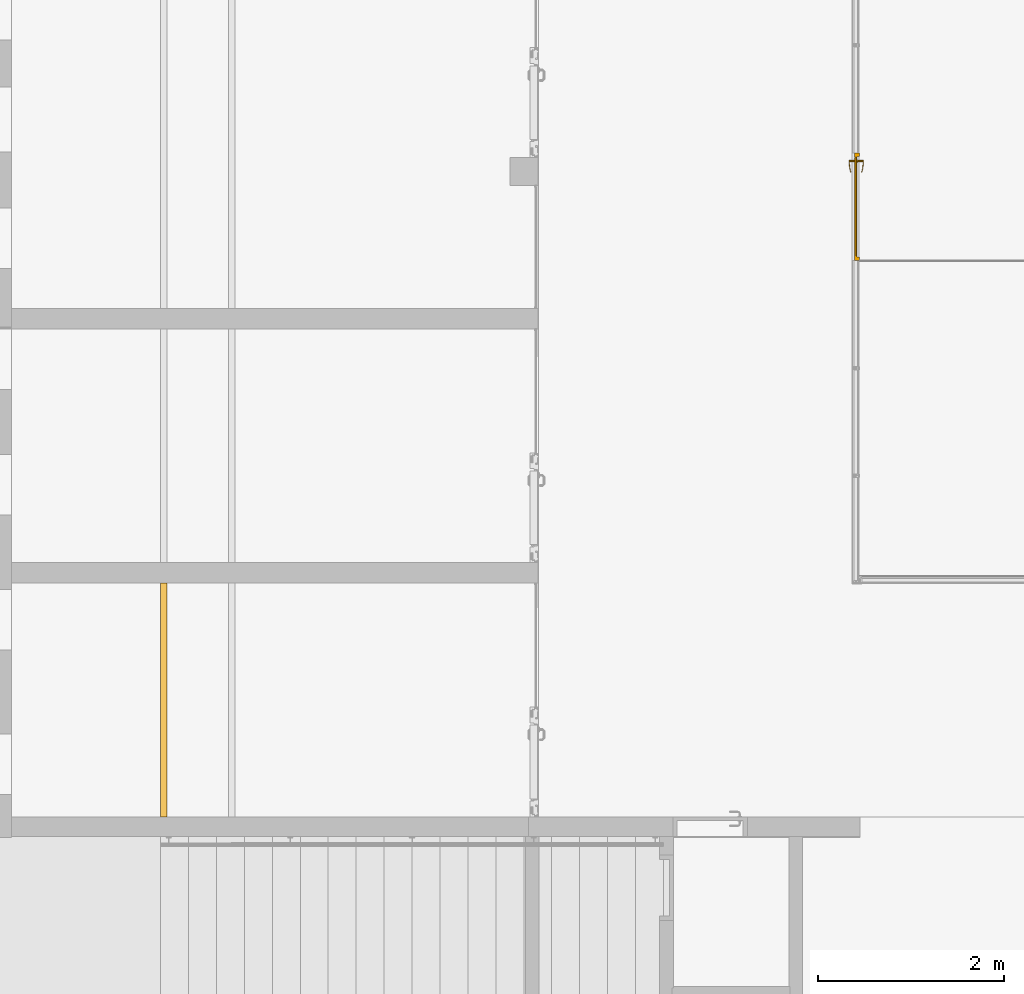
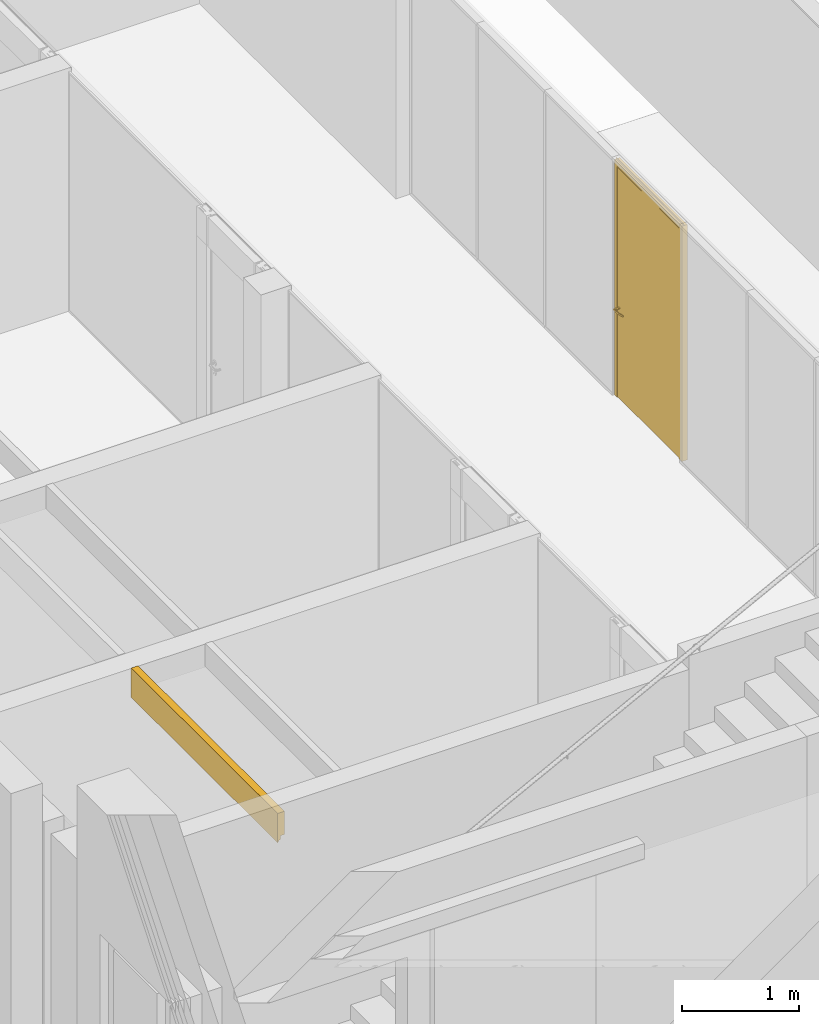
# One storey, part 53 of 79: 1 covering, 1 door, 1 element without a shape of its own.
"""IFC2X3 building model written with IfcOpenShell, lengths in millimetres."""

from ifc_helpers import new_model, entity, si_unit, converted_unit, derived_unit, money_unit, direction, frame, origin_with_axes, place, context, subcontext, project, spatial, open_shell, faceted_brep, surface_model, material, material_list, type_object, element, aggregate, save


model = new_model("IFC2X3")

# Units and contexts
model_context = context("Model", 3, precision=0.01, world=origin_with_axes(), true_north=direction((0.0, 1.0)))
body_context = subcontext(model_context, "Body", "Model", "MODEL_VIEW")
ifc_project = project(units=[si_unit("LENGTHUNIT", "METRE", prefix="MILLI"), si_unit("AREAUNIT", "SQUARE_METRE"), si_unit("VOLUMEUNIT", "CUBIC_METRE"), converted_unit("PLANEANGLEUNIT", "DEGREE", entity("IfcPlaneAngleMeasure", 0.0174532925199), si_unit("PLANEANGLEUNIT", "RADIAN"), dimensions=[0, 0, 0, 0, 0, 0, 0]), si_unit("SOLIDANGLEUNIT", "STERADIAN"), money_unit("EUR"), converted_unit("TIMEUNIT", "Year", entity("IfcTimeMeasure", 31556926.0), si_unit("TIMEUNIT", "SECOND"), dimensions=[0, 0, 1, 0, 0, 0, 0]), si_unit("MASSUNIT", "GRAM", prefix="KILO"), si_unit("THERMODYNAMICTEMPERATUREUNIT", "DEGREE_CELSIUS"), si_unit("LUMINOUSINTENSITYUNIT", "LUMEN"), si_unit("ENERGYUNIT", "JOULE", prefix="MEGA"), derived_unit("THERMALCONDUCTANCEUNIT", [(si_unit("POWERUNIT", "WATT"), 1), (si_unit("LENGTHUNIT", "METRE"), -1), (si_unit("THERMODYNAMICTEMPERATUREUNIT", "KELVIN"), -1)]), derived_unit("SPECIFICHEATCAPACITYUNIT", [(si_unit("ENERGYUNIT", "JOULE"), 1), (si_unit("MASSUNIT", "GRAM", prefix="KILO"), -1), (si_unit("THERMODYNAMICTEMPERATUREUNIT", "KELVIN"), -1)]), derived_unit("MASSDENSITYUNIT", [(si_unit("MASSUNIT", "GRAM", prefix="KILO"), 1), (si_unit("VOLUMEUNIT", "CUBIC_METRE"), -1)])], contexts=[model_context])

# Site, building, storey
site_placement = place(None, origin_with_axes())
site = spatial("IfcSite", under=ifc_project, at=site_placement, Name="L.Koidula tn 11b", CompositionType="ELEMENT")
building_placement = place(site_placement, origin_with_axes())
building = spatial("IfcBuilding", under=site, at=building_placement, Name="Rakvere Riigigümnaasium", CompositionType="ELEMENT")
storey_placement = place(building_placement, frame((0.0, 0.0, 3720.0), z_axis=(0.0, 0.0, 1.0), x_axis=(1.0, 0.0, 0.0)))
storey = spatial("IfcBuildingStorey", under=building, at=storey_placement, Name="2.korrus +3,72", CompositionType="ELEMENT", Elevation=3720.0)

# Curtain wall, door
curtain_wall_type = type_object("IfcCurtainWallType", Name="Curtain Wall Type", PredefinedType="NOTDEFINED")
curtain_wall_placement = place(storey_placement, frame((44568.0000786, 20404.7190306, -3.55964617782e-05), z_axis=(0.0, 0.0, 1.0), x_axis=(1.0, 0.0, 0.0)))
curtain_wall = element("IfcCurtainWall", 1, at=curtain_wall_placement, inside=storey, type_object=curtain_wall_type, Name="SKLF-17")
ifc_material_1 = material(Name="Alumiiniumprofiil")
ifc_material_2 = material(Name="VKR-05_Klaas")
ifc_material_3 = material(Name="ET-07_Teras - Roostevaba")
ifc_material_list_1 = material_list([ifc_material_1, ifc_material_2, ifc_material_3])
door_style = type_object("IfcDoorStyle", Name="Siseklaasfassaad - Klaasuks-Doubleline 1156 x 2478 x -5", ConstructionType="NOTDEFINED", OperationType="NOTDEFINED", ParameterTakesPrecedence=False, Sizeable=False)
door_placement = place(curtain_wall_placement, frame((0.0, 3468.5, 1246.5000178), z_axis=(0.0, 0.0, 1.0), x_axis=(0.0, -1.0, 0.0)))
door = element("IfcDoor", 2, at=door_placement, type_object=door_style, material=ifc_material_list_1, Name="Panel-Siseklaasf-016", ObjectType="DOOR", context=body_context, shape_type="SurfaceModel", body=[
    faceted_brep([(-578.000009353, -18.5, -1246.5000178), (-578.000009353, -18.5, 1216.50000946), (-578.000009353, -4.5, 1216.50000946), (-578.000009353, -4.5, -1246.5000178), (-532.000009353, -18.5, -1246.5000178), (-532.000009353, -18.5, 1170.50000946), (-532.000009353, -4.5, 1170.50000946), (-532.000009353, -4.5, -1246.5000178)], [[[0, 1, 2, 3]], [[0, 4, 5, 1]], [[1, 5, 6, 2]], [[3, 2, 6, 7]], [[4, 0, 3, 7]], [[5, 4, 7, 6]]]),
    faceted_brep([(578.0, -18.5, 1216.50000946), (532.0, -18.5, 1170.50000946), (532.0, -4.5, 1170.50000946), (578.0, -4.5, 1216.50000946), (-578.000009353, -18.5, 1216.50000946), (-532.000009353, -18.5, 1170.50000946), (-532.000009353, -4.5, 1170.50000946), (-578.000009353, -4.5, 1216.50000946)], [[[0, 1, 2, 3]], [[0, 4, 5, 1]], [[1, 5, 6, 2]], [[3, 2, 6, 7]], [[4, 0, 3, 7]], [[5, 4, 7, 6]]]),
    faceted_brep([(578.0, -18.5, -1246.5000178), (532.0, -18.5, -1246.5000178), (532.0, -4.5, -1246.5000178), (578.0, -4.5, -1246.5000178), (578.0, -18.5, 1216.50000946), (532.0, -18.5, 1170.50000946), (532.0, -4.5, 1170.50000946), (578.0, -4.5, 1216.50000946)], [[[0, 1, 2, 3]], [[0, 4, 5, 1]], [[1, 5, 6, 2]], [[3, 2, 6, 7]], [[4, 0, 3, 7]], [[5, 4, 7, 6]]]),
    faceted_brep([(-578.000009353, -4.5, -1246.5000178), (-578.000009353, -4.5, 1216.50000946), (-578.000009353, 35.5, 1216.50000946), (-578.000009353, 35.5, -1246.5000178), (-540.000009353, -4.5, -1246.5000178), (-540.000009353, -4.5, 1178.50000946), (-540.000009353, 35.5, 1178.50000946), (-540.000009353, 35.5, -1246.5000178)], [[[0, 1, 2, 3]], [[0, 4, 5, 1]], [[1, 5, 6, 2]], [[3, 2, 6, 7]], [[4, 0, 3, 7]], [[5, 4, 7, 6]]]),
    faceted_brep([(578.0, -4.5, 1216.50000946), (540.0, -4.5, 1178.50000946), (540.0, 35.5, 1178.50000946), (578.0, 35.5, 1216.50000946), (-578.000009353, -4.5, 1216.50000946), (-540.000009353, -4.5, 1178.50000946), (-540.000009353, 35.5, 1178.50000946), (-578.000009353, 35.5, 1216.50000946)], [[[0, 1, 2, 3]], [[0, 4, 5, 1]], [[1, 5, 6, 2]], [[3, 2, 6, 7]], [[4, 0, 3, 7]], [[5, 4, 7, 6]]]),
    faceted_brep([(578.0, -4.5, -1246.5000178), (540.0, -4.5, -1246.5000178), (540.0, 35.5, -1246.5000178), (578.0, 35.5, -1246.5000178), (578.0, -4.5, 1216.50000946), (540.0, -4.5, 1178.50000946), (540.0, 35.5, 1178.50000946), (578.0, 35.5, 1216.50000946)], [[[0, 1, 2, 3]], [[0, 4, 5, 1]], [[1, 5, 6, 2]], [[3, 2, 6, 7]], [[4, 0, 3, 7]], [[5, 4, 7, 6]]]),
    faceted_brep([(-578.000009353, -2.5, 1231.49999505), (578.0, -2.5, 1231.49999505), (578.0, 2.5, 1231.49999505), (-578.000009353, 2.5, 1231.49999505), (-578.000009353, -2.5, 1216.50000946), (578.0, -2.5, 1216.50000946), (578.0, 2.5, 1216.50000946), (-578.000009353, 2.5, 1216.50000946)], [[[0, 1, 2, 3]], [[0, 4, 5, 1]], [[1, 5, 6, 2]], [[3, 2, 6, 7]], [[4, 0, 3, 7]], [[5, 4, 7, 6]]]),
    faceted_brep([(528.0, -4.5, -1234.5000178), (528.0, -4.5, 1166.50000946), (528.0, 7.5, 1166.50000946), (528.0, 7.5, -1234.5000178), (540.0, -4.5, -1246.5000178), (540.0, -4.5, 1178.50000946), (540.0, 7.5, 1178.50000946), (540.0, 7.5, -1246.5000178)], [[[0, 1, 2, 3]], [[0, 4, 5, 1]], [[1, 5, 6, 2]], [[3, 2, 6, 7]], [[4, 0, 3, 7]], [[5, 4, 7, 6]]]),
    faceted_brep([(-540.000009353, -4.5, -1246.5000178), (-540.000009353, -4.5, 1178.50000946), (-540.000009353, 7.5, 1178.50000946), (-540.000009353, 7.5, -1246.5000178), (-528.000009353, -4.5, -1234.5000178), (-528.000009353, -4.5, 1166.50000946), (-528.000009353, 7.5, 1166.50000946), (-528.000009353, 7.5, -1234.5000178)], [[[0, 1, 2, 3]], [[0, 4, 5, 1]], [[1, 5, 6, 2]], [[3, 2, 6, 7]], [[4, 0, 3, 7]], [[5, 4, 7, 6]]]),
    faceted_brep([(-540.000009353, -4.5, -1246.5000178), (-528.000009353, -4.5, -1234.5000178), (-528.000009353, 7.5, -1234.5000178), (-540.000009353, 7.5, -1246.5000178), (540.0, -4.5, -1246.5000178), (528.0, -4.5, -1234.5000178), (528.0, 7.5, -1234.5000178), (540.0, 7.5, -1246.5000178)], [[[0, 1, 2, 3]], [[0, 4, 5, 1]], [[1, 5, 6, 2]], [[3, 2, 6, 7]], [[4, 0, 3, 7]], [[5, 4, 7, 6]]]),
    faceted_brep([(540.0, -4.5, 1178.50000946), (528.0, -4.5, 1166.50000946), (528.0, 7.5, 1166.50000946), (540.0, 7.5, 1178.50000946), (-540.000009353, -4.5, 1178.50000946), (-528.000009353, -4.5, 1166.50000946), (-528.000009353, 7.5, 1166.50000946), (-540.000009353, 7.5, 1178.50000946)], [[[0, 1, 2, 3]], [[0, 4, 5, 1]], [[1, 5, 6, 2]], [[3, 2, 6, 7]], [[4, 0, 3, 7]], [[5, 4, 7, 6]]]),
    faceted_brep([(528.0, -18.5, -1234.5000178), (-528.000009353, -18.5, -1234.5000178), (-528.000009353, -2.5, -1234.5000178), (528.0, -2.5, -1234.5000178), (528.0, -18.5, 1166.50000946), (-528.000009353, -18.5, 1166.50000946), (-528.000009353, -2.5, 1166.50000946), (528.0, -2.5, 1166.50000946)], [[[0, 1, 2, 3]], [[0, 4, 5, 1]], [[1, 5, 6, 2]], [[3, 2, 6, 7]], [[4, 0, 3, 7]], [[5, 4, 7, 6]]]),
    faceted_brep([(-518.500009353, 7.5, -224.500017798), (-461.500009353, 7.5, -224.500017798), (-461.500009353, 10.5, -224.500017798), (-518.500009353, 10.5, -224.500017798), (-518.500009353, 7.5, -414.500017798), (-461.500009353, 7.5, -414.500017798), (-461.500009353, 10.5, -414.500017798), (-518.500009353, 10.5, -414.500017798)], [[[0, 1, 2, 3]], [[0, 4, 5, 1]], [[1, 5, 6, 2]], [[3, 2, 6, 7]], [[4, 0, 3, 7]], [[5, 4, 7, 6]]]),
    surface_model("IfcShellBasedSurfaceModel", [(-490.000009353, 71.5, -294.500017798), (-498.660263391, 71.5, -289.500017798), (-498.660263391, 78.5, -289.500017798), (-490.000009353, 78.5, -294.500017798), (-465.000009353, 71.5, -294.500017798), (-465.000009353, 71.5, -274.500017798), (-490.000009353, 71.5, -274.500017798), (-498.660263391, 71.5, -279.500017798), (-498.660263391, 78.5, -279.500017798), (-490.000009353, 78.5, -274.500017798), (-465.000009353, 78.5, -274.500017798), (-465.000009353, 78.5, -294.500017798)], [open_shell([[[0, 1, 2, 3]], [[0, 4, 5, 6, 7, 1]], [[1, 7, 8, 2]], [[3, 2, 8, 9, 10, 11]], [[4, 0, 3, 11]], [[6, 5, 10, 9]], [[7, 6, 9, 8]]])]),
    surface_model("IfcShellBasedSurfaceModel", [(-465.000009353, 71.5, -274.500017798), (-451.901726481, 71.5, -274.89271688), (-451.596099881, 78.5, -274.89271688), (-465.000009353, 71.5, -294.500017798), (-451.901726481, 71.5, -294.107318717), (-424.890292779, 76.1635446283, -275.678115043), (-465.000009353, 78.5, -274.500017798), (-465.000009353, 78.5, -294.500017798), (-425.804846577, 69.216818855, -293.321920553), (-425.804846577, 69.216818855, -275.678115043), (-424.890292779, 76.1635446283, -293.321920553), (-451.596099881, 78.5, -294.107318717), (-400.006265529, 64.6678329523, -292.53652239), (-400.006265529, 64.6678329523, -276.463513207), (-398.48974484, 71.5084157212, -276.463513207), (-398.48974484, 71.5084157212, -292.53652239), (-374.702326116, 57.8876628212, -291.751124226), (-374.702326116, 57.8876628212, -277.24891137), (-372.595380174, 64.5700416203, -277.24891137), (-372.595380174, 64.5700416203, -291.751124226), (-366.829451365, 55.0221707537, -291.500017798), (-366.829451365, 55.0221707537, -277.500017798), (-364.538805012, 61.6376880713, -277.500017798), (-364.538805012, 61.6376880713, -291.500017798)], [open_shell([[[0, 1, 2]], [[0, 3, 4, 1]], [[1, 5, 2]], [[0, 2, 6]], [[4, 3, 7]], [[1, 4, 8, 9]], [[1, 9, 5]], [[2, 5, 10, 11]], [[6, 2, 11, 7]], [[4, 7, 11]], [[8, 4, 11]], [[9, 8, 12, 13]], [[9, 14, 5]], [[5, 14, 15, 10]], [[8, 11, 10]], [[12, 8, 10]], [[13, 12, 16, 17]], [[9, 13, 14]], [[14, 18, 19, 15]], [[12, 10, 15]], [[16, 12, 15]], [[17, 16, 20, 21]], [[13, 17, 18]], [[13, 18, 14]], [[18, 22, 23, 19]], [[16, 15, 19]], [[20, 16, 19]], [[21, 20, 23, 22]], [[17, 21, 22]], [[17, 22, 18]], [[20, 19, 23]]])]),
    faceted_brep([(-486.291805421, 20.5, -295.912695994), (-478.000009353, 20.5, -284.500017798), (-477.000009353, 10.5, -284.500017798), (-485.982788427, 10.5, -296.86375251), (-499.708213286, 20.5, -291.553440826), (-499.708213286, 20.5, -277.446594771), (-486.291805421, 20.5, -273.087339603), (-485.982788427, 10.5, -272.136283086), (-500.51723028, 10.5, -276.858809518), (-500.51723028, 10.5, -292.141226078)], [[[0, 1, 2, 3]], [[1, 0, 4, 5, 6]], [[1, 6, 7, 2]], [[2, 7, 8, 9, 3]], [[4, 0, 3, 9]], [[5, 4, 9, 8]], [[6, 5, 8, 7]]]),
    faceted_brep([(-483.819669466, 14.5, -398.521148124), (-470.000009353, 14.5, -379.500017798), (-468.000009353, 10.5, -379.500017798), (-483.201635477, 10.5, -400.423261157), (-506.180349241, 14.5, -391.255722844), (-506.180349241, 14.5, -367.744312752), (-483.819669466, 14.5, -360.478887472), (-483.201635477, 10.5, -358.57677444), (-507.79838323, 10.5, -366.568742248), (-507.79838323, 10.5, -392.431293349)], [[[0, 1, 2, 3]], [[1, 0, 4, 5, 6]], [[1, 6, 7, 2]], [[2, 7, 8, 9, 3]], [[4, 0, 3, 9]], [[5, 4, 9, 8]], [[6, 5, 8, 7]]]),
    faceted_brep([(-487.836890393, 16.5, -377.157413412), (-483.000009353, 16.5, -370.500017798), (-482.000009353, 14.5, -370.500017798), (-487.527873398, 14.5, -378.108469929), (-495.663128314, 16.5, -374.614514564), (-495.663128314, 16.5, -366.385521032), (-487.836890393, 16.5, -363.842622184), (-487.527873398, 14.5, -362.891565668), (-496.472145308, 14.5, -365.79773578), (-496.472145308, 14.5, -375.202299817)], [[[0, 1, 2, 3]], [[1, 0, 4, 5, 6]], [[1, 6, 7, 2]], [[2, 7, 8, 9, 3]], [[4, 0, 3, 9]], [[5, 4, 9, 8]], [[6, 5, 8, 7]]]),
    faceted_brep([(-490.000009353, 20.5, -274.500017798), (-480.48944419, 20.5, -281.409847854), (-480.48944419, 71.5, -281.409847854), (-490.000009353, 71.5, -274.500017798), (-499.510574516, 20.5, -281.409847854), (-495.877861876, 20.5, -292.590187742), (-484.122156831, 20.5, -292.590187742), (-484.122156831, 71.5, -292.590187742), (-495.877861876, 71.5, -292.590187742), (-499.510574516, 71.5, -281.409847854)], [[[0, 1, 2, 3]], [[0, 4, 5, 6, 1]], [[1, 6, 7, 2]], [[3, 2, 7, 8, 9]], [[4, 0, 3, 9]], [[5, 4, 9, 8]], [[6, 5, 8, 7]]]),
    faceted_brep([(-518.500009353, -4.5, -224.500017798), (-518.500009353, -7.5, -224.500017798), (-461.500009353, -7.5, -224.500017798), (-461.500009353, -4.5, -224.500017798), (-518.500009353, -4.5, -414.500017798), (-518.500009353, -7.5, -414.500017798), (-461.500009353, -7.5, -414.500017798), (-461.500009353, -4.5, -414.500017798)], [[[0, 1, 2, 3]], [[4, 5, 1, 0]], [[1, 5, 6, 2]], [[3, 2, 6, 7]], [[0, 3, 7, 4]], [[7, 6, 5, 4]]]),
    surface_model("IfcShellBasedSurfaceModel", [(-490.000009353, -68.5, -294.500017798), (-490.000009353, -75.5, -294.500017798), (-498.660263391, -75.5, -289.500017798), (-498.660263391, -68.5, -289.500017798), (-465.000009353, -68.5, -294.500017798), (-465.000009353, -75.5, -294.500017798), (-465.000009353, -75.5, -274.500017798), (-490.000009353, -75.5, -274.500017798), (-498.660263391, -75.5, -279.500017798), (-498.660263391, -68.5, -279.500017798), (-490.000009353, -68.5, -274.500017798), (-465.000009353, -68.5, -274.500017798)], [open_shell([[[0, 1, 2, 3]], [[4, 5, 1, 0]], [[1, 5, 6, 7, 8, 2]], [[3, 2, 8, 9]], [[0, 3, 9, 10, 11, 4]], [[10, 7, 6, 11]], [[9, 8, 7, 10]]])]),
    surface_model("IfcShellBasedSurfaceModel", [(-465.000009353, -68.5, -274.500017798), (-451.596099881, -75.5, -274.89271688), (-451.901726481, -68.5, -274.89271688), (-465.000009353, -75.5, -274.500017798), (-424.890292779, -73.1635446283, -275.678115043), (-451.901726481, -68.5, -294.107318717), (-465.000009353, -68.5, -294.500017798), (-465.000009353, -75.5, -294.500017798), (-451.596099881, -75.5, -294.107318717), (-424.890292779, -73.1635446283, -293.321920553), (-425.804846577, -66.216818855, -275.678115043), (-425.804846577, -66.216818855, -293.321920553), (-398.48974484, -68.5084157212, -292.53652239), (-398.48974484, -68.5084157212, -276.463513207), (-400.006265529, -61.6678329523, -276.463513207), (-400.006265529, -61.6678329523, -292.53652239), (-372.595380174, -61.5700416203, -291.751124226), (-372.595380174, -61.5700416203, -277.24891137), (-374.702326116, -54.8876628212, -277.24891137), (-374.702326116, -54.8876628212, -291.751124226), (-364.538805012, -58.6376880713, -291.500017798), (-364.538805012, -58.6376880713, -277.500017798), (-366.829451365, -52.0221707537, -277.500017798), (-366.829451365, -52.0221707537, -291.500017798)], [open_shell([[[0, 1, 2]], [[0, 3, 1]], [[2, 1, 4]], [[0, 2, 5, 6]], [[3, 7, 8, 1]], [[1, 8, 9, 4]], [[2, 4, 10]], [[2, 10, 11, 5]], [[5, 7, 6]], [[5, 8, 7]], [[11, 9, 8]], [[4, 9, 12, 13]], [[10, 4, 13]], [[10, 14, 15, 11]], [[11, 8, 5]], [[15, 9, 11]], [[15, 12, 9]], [[13, 12, 16, 17]], [[10, 13, 14]], [[14, 18, 19, 15]], [[19, 12, 15]], [[19, 16, 12]], [[17, 16, 20, 21]], [[14, 13, 17]], [[14, 17, 18]], [[18, 22, 23, 19]], [[23, 16, 19]], [[23, 20, 16]], [[22, 21, 20, 23]], [[18, 17, 21]], [[18, 21, 22]]])]),
    faceted_brep([(-486.291805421, -17.5, -295.912695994), (-485.982788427, -7.5, -296.86375251), (-477.000009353, -7.5, -284.500017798), (-478.000009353, -17.5, -284.500017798), (-499.708213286, -17.5, -291.553440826), (-500.51723028, -7.5, -292.141226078), (-500.51723028, -7.5, -276.858809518), (-485.982788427, -7.5, -272.136283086), (-486.291805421, -17.5, -273.087339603), (-499.708213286, -17.5, -277.446594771)], [[[0, 1, 2, 3]], [[4, 5, 1, 0]], [[2, 1, 5, 6, 7]], [[3, 2, 7, 8]], [[3, 8, 9, 4, 0]], [[9, 6, 5, 4]], [[8, 7, 6, 9]]]),
    faceted_brep([(-483.819669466, -11.5, -398.521148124), (-483.201635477, -7.5, -400.423261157), (-468.000009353, -7.5, -379.500017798), (-470.000009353, -11.5, -379.500017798), (-506.180349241, -11.5, -391.255722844), (-507.79838323, -7.5, -392.431293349), (-507.79838323, -7.5, -366.568742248), (-483.201635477, -7.5, -358.57677444), (-483.819669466, -11.5, -360.478887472), (-506.180349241, -11.5, -367.744312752)], [[[0, 1, 2, 3]], [[4, 5, 1, 0]], [[2, 1, 5, 6, 7]], [[3, 2, 7, 8]], [[3, 8, 9, 4, 0]], [[9, 6, 5, 4]], [[8, 7, 6, 9]]]),
    faceted_brep([(-487.836890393, -13.5, -377.157413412), (-487.527873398, -11.5, -378.108469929), (-482.000009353, -11.5, -370.500017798), (-483.000009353, -13.5, -370.500017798), (-495.663128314, -13.5, -374.614514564), (-496.472145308, -11.5, -375.202299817), (-496.472145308, -11.5, -365.79773578), (-487.527873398, -11.5, -362.891565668), (-487.836890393, -13.5, -363.842622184), (-495.663128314, -13.5, -366.385521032)], [[[0, 1, 2, 3]], [[4, 5, 1, 0]], [[2, 1, 5, 6, 7]], [[3, 2, 7, 8]], [[3, 8, 9, 4, 0]], [[9, 6, 5, 4]], [[8, 7, 6, 9]]]),
    faceted_brep([(-490.000009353, -17.5, -274.500017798), (-490.000009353, -68.5, -274.500017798), (-480.48944419, -68.5, -281.409847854), (-480.48944419, -17.5, -281.409847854), (-499.510574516, -17.5, -281.409847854), (-499.510574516, -68.5, -281.409847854), (-495.877861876, -68.5, -292.590187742), (-484.122156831, -68.5, -292.590187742), (-484.122156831, -17.5, -292.590187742), (-495.877861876, -17.5, -292.590187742)], [[[0, 1, 2, 3]], [[4, 5, 1, 0]], [[1, 5, 6, 7, 2]], [[3, 2, 7, 8]], [[0, 3, 8, 9, 4]], [[9, 6, 5, 4]], [[8, 7, 6, 9]]]),
])
aggregate(curtain_wall, [door])

# Covering
ifc_material_4 = material(Name="Teras")
ifc_material_5 = material(Name="SKR-02_Kipsplaat")
ifc_material_6 = material(Name="mineraalvill+karkass")
ifc_material_list_2 = material_list([ifc_material_4, ifc_material_5, ifc_material_5, ifc_material_6])
covering_type = type_object("IfcCoveringType", Name="SA-LV-kipsx2+teras 68", PredefinedType="CEILING")
covering_placement = place(storey_placement, frame((37100.0000521, 17320.4555095, 2240.0), z_axis=(0.0, 0.0, 1.0), x_axis=(0.0, 1.0, 0.0)))
element("IfcCovering", 3, at=covering_placement, inside=storey, type_object=covering_type, material=ifc_material_list_2, Name="L-12", PredefinedType="CEILING", context=body_context, shape_type="Brep", body=[
    faceted_brep([(0.0, -3.0, 3.0), (2509.99855059, -3.0, 3.0), (2509.99865167, -3.0, 310.0), (0.0, -3.0, 310.0), (2509.99855059, 0.0, 3.0), (0.0, 0.0, 3.0), (2509.99865167, 0.0, 310.0), (0.0, 0.0, 310.0)], [[[0, 1, 2, 3]], [[4, 1, 0, 5]], [[1, 4, 6, 2]], [[3, 2, 6, 7]], [[5, 0, 3, 7]], [[4, 5, 7, 6]]]),
    faceted_brep([(0.0, -15.5, 15.5), (2509.99855059, -15.5, 15.5), (2509.99865167, -15.5, 310.0), (0.0, -15.5, 310.0), (2509.99855059, -3.0, 15.5), (0.0, -3.0, 15.5), (2509.99865167, -3.0, 310.0), (0.0, -3.0, 310.0)], [[[0, 1, 2, 3]], [[4, 1, 0, 5]], [[1, 4, 6, 2]], [[3, 2, 6, 7]], [[5, 0, 3, 7]], [[4, 5, 7, 6]]]),
    faceted_brep([(0.0, -28.0, 28.0), (2509.99855059, -28.0, 28.0), (2509.99865167, -28.0, 310.0), (0.0, -28.0, 310.0), (2509.99855059, -15.5, 28.0), (0.0, -15.5, 28.0), (2509.99865167, -15.5, 310.0), (0.0, -15.5, 310.0)], [[[0, 1, 2, 3]], [[4, 1, 0, 5]], [[1, 4, 6, 2]], [[3, 2, 6, 7]], [[5, 0, 3, 7]], [[4, 5, 7, 6]]]),
    faceted_brep([(0.0, -68.0, 68.0), (2509.99855059, -68.0, 68.0), (2509.99865167, -68.0, 310.0), (0.0, -68.0, 310.0), (2509.99855059, -28.0, 68.0), (0.0, -28.0, 68.0), (2509.99865167, -28.0, 310.0), (0.0, -28.0, 310.0)], [[[0, 1, 2, 3]], [[4, 1, 0, 5]], [[1, 4, 6, 2]], [[3, 2, 6, 7]], [[5, 0, 3, 7]], [[4, 5, 7, 6]]]),
])

save(model, "model.ifc")
